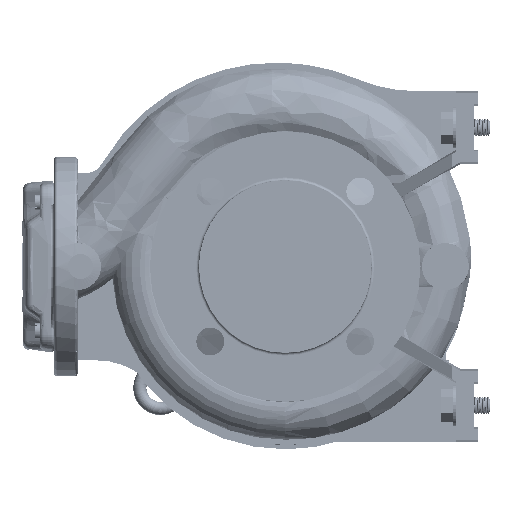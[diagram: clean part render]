
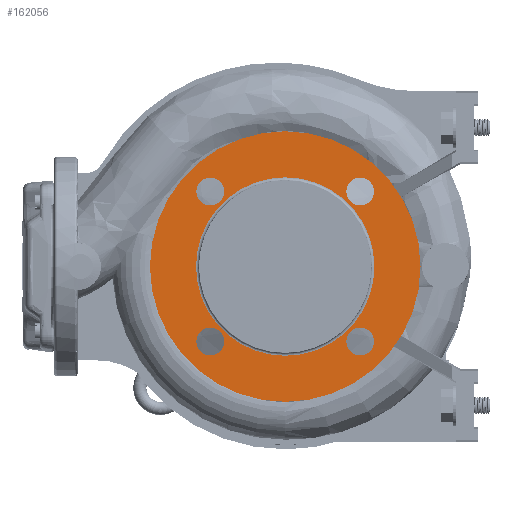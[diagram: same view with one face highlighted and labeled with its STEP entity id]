
A CAD part, left-side view. The second image highlights one B-rep face of the part: STEP entity #162056.
In plain terms, the highlighted planar face has unit normal (-1, 0, 0).
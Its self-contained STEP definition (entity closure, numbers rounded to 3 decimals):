
#2573 = EDGE_CURVE ( 'NONE', #57113, #41204, #132966, .T. ) ;
#2692 = ORIENTED_EDGE ( 'NONE', *, *, #2573, .F. ) ;
#3045 = AXIS2_PLACEMENT_3D ( 'NONE', #65730, #173027, #113154 ) ;
#7135 = DIRECTION ( 'NONE',  ( -1., 0., 0. ) ) ;
#8730 = PLANE ( 'NONE',  #161566 ) ;
#8970 = DIRECTION ( 'NONE',  ( -1., 0., 0. ) ) ;
#9882 = DIRECTION ( 'NONE',  ( -1., 0., 0. ) ) ;
#10901 = DIRECTION ( 'NONE',  ( 0., 1., 0. ) ) ;
#11742 = EDGE_CURVE ( 'NONE', #74929, #193237, #36423, .T. ) ;
#14703 = AXIS2_PLACEMENT_3D ( 'NONE', #66594, #129514, #192369 ) ;
#21176 = ORIENTED_EDGE ( 'NONE', *, *, #63152, .F. ) ;
#23023 = EDGE_LOOP ( 'NONE', ( #73907, #154336 ) ) ;
#23732 = EDGE_CURVE ( 'NONE', #66311, #197106, #72660, .T. ) ;
#24346 = CARTESIAN_POINT ( 'NONE',  ( -40.899, 170.852, 189.547 ) ) ;
#25031 = EDGE_CURVE ( 'NONE', #202781, #73962, #56010, .T. ) ;
#25294 = AXIS2_PLACEMENT_3D ( 'NONE', #115087, #180017, #97616 ) ;
#29258 = FACE_BOUND ( 'NONE', #88953, .T. ) ;
#29420 = VERTEX_POINT ( 'NONE', #89506 ) ;
#30402 = CARTESIAN_POINT ( 'NONE',  ( -40.899, 68.322, 292.077 ) ) ;
#31976 = EDGE_CURVE ( 'NONE', #29420, #146789, #84306, .T. ) ;
#34338 = CARTESIAN_POINT ( 'NONE',  ( -40.899, 180.352, 189.547 ) ) ;
#36423 = CIRCLE ( 'NONE', #42907, 9.5 ) ;
#36978 = DIRECTION ( 'NONE',  ( -1., 0., 0. ) ) ;
#41204 = VERTEX_POINT ( 'NONE', #139077 ) ;
#42828 = CARTESIAN_POINT ( 'NONE',  ( -40.899, 68.322, 189.547 ) ) ;
#42907 = AXIS2_PLACEMENT_3D ( 'NONE', #129840, #36978, #69983 ) ;
#42937 = CARTESIAN_POINT ( 'NONE',  ( -40.899, 119.587, 240.812 ) ) ;
#43627 = ORIENTED_EDGE ( 'NONE', *, *, #25031, .F. ) ;
#49173 = EDGE_LOOP ( 'NONE', ( #96714, #43627 ) ) ;
#52558 = CARTESIAN_POINT ( 'NONE',  ( -40.899, 77.822, 292.077 ) ) ;
#55367 = DIRECTION ( 'NONE',  ( 0., -1., 0. ) ) ;
#56010 = CIRCLE ( 'NONE', #200855, 61. ) ;
#57113 = VERTEX_POINT ( 'NONE', #52558 ) ;
#57325 = DIRECTION ( 'NONE',  ( 0., 0., 1. ) ) ;
#60228 = CARTESIAN_POINT ( 'NONE',  ( -40.899, 180.587, 240.812 ) ) ;
#60543 = AXIS2_PLACEMENT_3D ( 'NONE', #30402, #94359, #92297 ) ;
#63152 = EDGE_CURVE ( 'NONE', #197106, #66311, #105682, .T. ) ;
#65730 = CARTESIAN_POINT ( 'NONE',  ( -40.899, 170.852, 292.077 ) ) ;
#66249 = DIRECTION ( 'NONE',  ( 0., -1., 0. ) ) ;
#66311 = VERTEX_POINT ( 'NONE', #144621 ) ;
#66594 = CARTESIAN_POINT ( 'NONE',  ( -40.899, 68.322, 292.077 ) ) ;
#69983 = DIRECTION ( 'NONE',  ( 0., -1., 0. ) ) ;
#72660 = CIRCLE ( 'NONE', #141876, 9.5 ) ;
#73069 = EDGE_CURVE ( 'NONE', #144416, #195452, #199718, .T. ) ;
#73907 = ORIENTED_EDGE ( 'NONE', *, *, #110873, .F. ) ;
#73962 = VERTEX_POINT ( 'NONE', #135695 ) ;
#74929 = VERTEX_POINT ( 'NONE', #110358 ) ;
#81418 = AXIS2_PLACEMENT_3D ( 'NONE', #42937, #8970, #55367 ) ;
#83762 = ORIENTED_EDGE ( 'NONE', *, *, #149673, .F. ) ;
#84306 = CIRCLE ( 'NONE', #100656, 92.5 ) ;
#84777 = DIRECTION ( 'NONE',  ( -1., 0., 0. ) ) ;
#85272 = ORIENTED_EDGE ( 'NONE', *, *, #73069, .F. ) ;
#86978 = CIRCLE ( 'NONE', #195609, 92.5 ) ;
#88953 = EDGE_LOOP ( 'NONE', ( #190139, #21176 ) ) ;
#89506 = CARTESIAN_POINT ( 'NONE',  ( -40.899, 27.087, 240.812 ) ) ;
#89587 = EDGE_LOOP ( 'NONE', ( #83762, #2692 ) ) ;
#90124 = ORIENTED_EDGE ( 'NONE', *, *, #172364, .F. ) ;
#90131 = FACE_BOUND ( 'NONE', #110450, .T. ) ;
#91976 = CIRCLE ( 'NONE', #3045, 9.5 ) ;
#92297 = DIRECTION ( 'NONE',  ( 0., 0., -1. ) ) ;
#94359 = DIRECTION ( 'NONE',  ( -1., 0., 0. ) ) ;
#96714 = ORIENTED_EDGE ( 'NONE', *, *, #99539, .F. ) ;
#97616 = DIRECTION ( 'NONE',  ( 0., 0., 1. ) ) ;
#99539 = EDGE_CURVE ( 'NONE', #73962, #202781, #203290, .T. ) ;
#100656 = AXIS2_PLACEMENT_3D ( 'NONE', #181339, #7135, #148393 ) ;
#105485 = CIRCLE ( 'NONE', #184974, 9.5 ) ;
#105616 = FACE_BOUND ( 'NONE', #89587, .T. ) ;
#105682 = CIRCLE ( 'NONE', #138517, 9.5 ) ;
#109571 = CARTESIAN_POINT ( 'NONE',  ( -40.899, 77.822, 189.547 ) ) ;
#109923 = CARTESIAN_POINT ( 'NONE',  ( -40.899, 161.352, 292.077 ) ) ;
#110358 = CARTESIAN_POINT ( 'NONE',  ( -40.899, 180.352, 292.077 ) ) ;
#110450 = EDGE_LOOP ( 'NONE', ( #90124, #85272 ) ) ;
#110873 = EDGE_CURVE ( 'NONE', #193237, #74929, #91976, .T. ) ;
#111733 = ORIENTED_EDGE ( 'NONE', *, *, #148750, .T. ) ;
#113154 = DIRECTION ( 'NONE',  ( 0., -1., 0. ) ) ;
#115087 = CARTESIAN_POINT ( 'NONE',  ( -40.899, 170.852, 189.547 ) ) ;
#116021 = DIRECTION ( 'NONE',  ( -1., 0., 0. ) ) ;
#122101 = DIRECTION ( 'NONE',  ( 1., 0., 0. ) ) ;
#125284 = CARTESIAN_POINT ( 'NONE',  ( -40.899, 68.322, 189.547 ) ) ;
#129514 = DIRECTION ( 'NONE',  ( -1., 0., 0. ) ) ;
#129840 = CARTESIAN_POINT ( 'NONE',  ( -40.899, 170.852, 292.077 ) ) ;
#129951 = ORIENTED_EDGE ( 'NONE', *, *, #31976, .T. ) ;
#130522 = CARTESIAN_POINT ( 'NONE',  ( -40.899, 119.587, 240.812 ) ) ;
#132966 = CIRCLE ( 'NONE', #60543, 9.5 ) ;
#135695 = CARTESIAN_POINT ( 'NONE',  ( -40.899, 58.587, 240.812 ) ) ;
#137596 = FACE_BOUND ( 'NONE', #23023, .T. ) ;
#138517 = AXIS2_PLACEMENT_3D ( 'NONE', #42828, #170675, #186140 ) ;
#139077 = CARTESIAN_POINT ( 'NONE',  ( -40.899, 58.822, 292.077 ) ) ;
#141876 = AXIS2_PLACEMENT_3D ( 'NONE', #125284, #172729, #10901 ) ;
#144416 = VERTEX_POINT ( 'NONE', #34338 ) ;
#144621 = CARTESIAN_POINT ( 'NONE',  ( -40.899, 58.822, 189.547 ) ) ;
#145640 = CARTESIAN_POINT ( 'NONE',  ( -40.899, 119.587, 240.812 ) ) ;
#146789 = VERTEX_POINT ( 'NONE', #161214 ) ;
#147980 = DIRECTION ( 'NONE',  ( 0., -1., 0. ) ) ;
#148393 = DIRECTION ( 'NONE',  ( 0., -1., 0. ) ) ;
#148750 = EDGE_CURVE ( 'NONE', #146789, #29420, #86978, .T. ) ;
#149673 = EDGE_CURVE ( 'NONE', #41204, #57113, #192504, .T. ) ;
#154049 = DIRECTION ( 'NONE',  ( 0., 1., 0. ) ) ;
#154336 = ORIENTED_EDGE ( 'NONE', *, *, #11742, .F. ) ;
#157538 = CARTESIAN_POINT ( 'NONE',  ( -40.899, 180.587, 240.812 ) ) ;
#161214 = CARTESIAN_POINT ( 'NONE',  ( -40.899, 212.087, 240.812 ) ) ;
#161566 = AXIS2_PLACEMENT_3D ( 'NONE', #60228, #122101, #154049 ) ;
#162056 = ADVANCED_FACE ( 'NONE', ( #105616, #29258, #90131, #137596, #201458, #200436 ), #8730, .F. ) ;
#166964 = CARTESIAN_POINT ( 'NONE',  ( -40.899, 161.352, 189.547 ) ) ;
#170675 = DIRECTION ( 'NONE',  ( -1., 0., 0. ) ) ;
#172364 = EDGE_CURVE ( 'NONE', #195452, #144416, #105485, .T. ) ;
#172729 = DIRECTION ( 'NONE',  ( -1., 0., 0. ) ) ;
#173027 = DIRECTION ( 'NONE',  ( -1., 0., 0. ) ) ;
#180017 = DIRECTION ( 'NONE',  ( -1., 0., 0. ) ) ;
#181339 = CARTESIAN_POINT ( 'NONE',  ( -40.899, 119.587, 240.812 ) ) ;
#184974 = AXIS2_PLACEMENT_3D ( 'NONE', #24346, #9882, #57325 ) ;
#186140 = DIRECTION ( 'NONE',  ( 0., 1., 0. ) ) ;
#190139 = ORIENTED_EDGE ( 'NONE', *, *, #23732, .F. ) ;
#192369 = DIRECTION ( 'NONE',  ( 0., 0., -1. ) ) ;
#192504 = CIRCLE ( 'NONE', #14703, 9.5 ) ;
#193237 = VERTEX_POINT ( 'NONE', #109923 ) ;
#195452 = VERTEX_POINT ( 'NONE', #166964 ) ;
#195609 = AXIS2_PLACEMENT_3D ( 'NONE', #130522, #116021, #147980 ) ;
#197106 = VERTEX_POINT ( 'NONE', #109571 ) ;
#199718 = CIRCLE ( 'NONE', #25294, 9.5 ) ;
#200436 = FACE_OUTER_BOUND ( 'NONE', #202033, .T. ) ;
#200855 = AXIS2_PLACEMENT_3D ( 'NONE', #145640, #84777, #66249 ) ;
#201458 = FACE_BOUND ( 'NONE', #49173, .T. ) ;
#202033 = EDGE_LOOP ( 'NONE', ( #129951, #111733 ) ) ;
#202781 = VERTEX_POINT ( 'NONE', #157538 ) ;
#203290 = CIRCLE ( 'NONE', #81418, 61. ) ;
